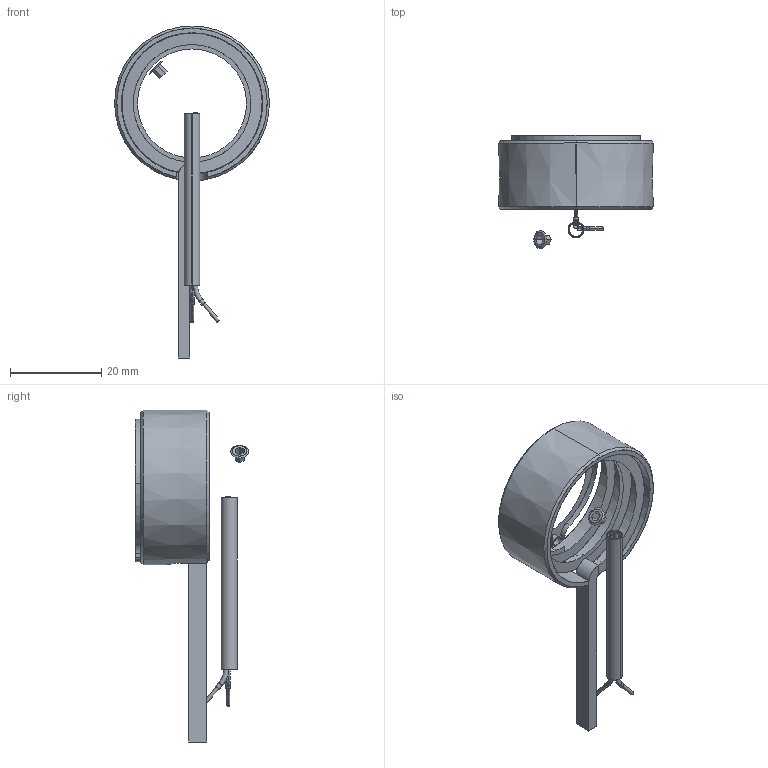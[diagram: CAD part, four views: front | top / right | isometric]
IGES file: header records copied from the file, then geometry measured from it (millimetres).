
Start section: SolidWorks IGES file using analytic representation for surfaces
Global section: file name: C:\Documents and Settings\ws-20\Desktop\TEM\UGGS2530-M-1 [Øf-0.47].IGS; native system: SolidWorks 2012; preprocessor: SolidWorks 2012; author: ws-20; date: 120516.093117; units: millimetre
Bounding box: 34 x 24.9 x 72.9 mm (x, y, z)
Surface area: 6867.3 mm2 (no closed solid volume)
Topology: 0 solids, 0 shells, 75 faces, 882 edges, 882 vertices
Faces by surface type: revolution 42, bspline 33
